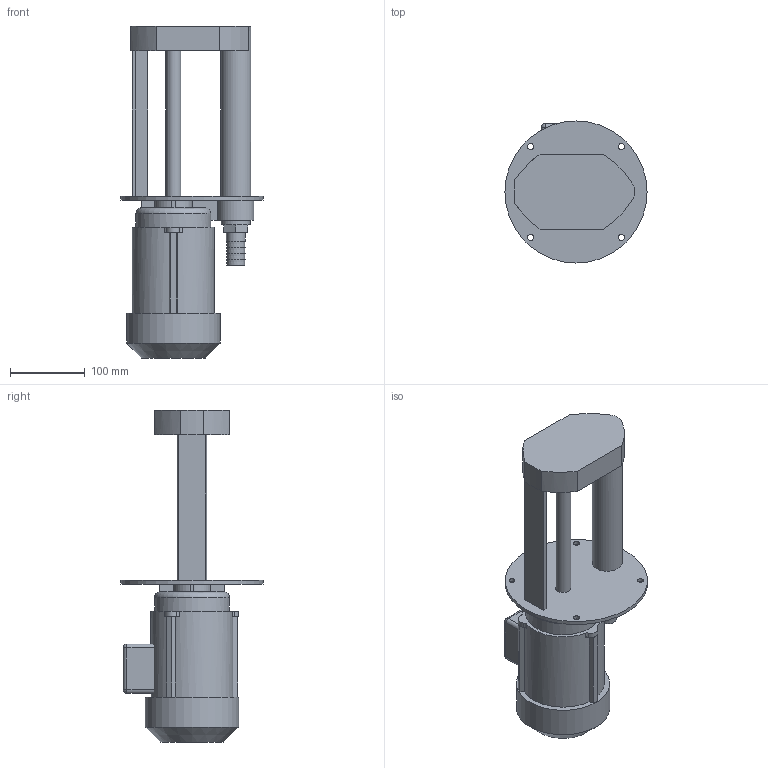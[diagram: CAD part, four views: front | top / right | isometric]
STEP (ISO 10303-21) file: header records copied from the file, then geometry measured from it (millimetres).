
FILE_DESCRIPTION(('STEP AP214'), '1');
FILE_NAME('AB-100-380V - Ïîìïà ÑÎÆ', '', ('UNSPECIFIED'), ('UNSPECIFIED'), 'ASCON STEP Converter 1.3', 'ASCON Math Kernel', '');
FILE_SCHEMA(('AUTOMOTIVE_DESIGN { 1 0 10303 214 3 1 1}'));
Length unit declared in the file: millimetre
Products named in the file (1): AB-100-380V
Bounding box: 190 x 190 x 444 mm (x, y, z)
Volume: 2978417.8 mm3; surface area: 302317.6 mm2
Topology: 2 solids, 2 shells, 133 faces, 338 edges, 212 vertices
Faces by surface type: plane 80, cylinder 43, cone 5, sphere 4, torus 1
Full cylindrical faces by diameter (mm): 8 x4, 12 x1, 18 x1, 20 x1, 25 x1, 30 x1, 30.292 x1, 32 x1, 39 x1, 40 x1, 50 x1, 100 x1, 125 x1, 190 x1
Entity records: 5019 total; most frequent: CARTESIAN_POINT 707, DIRECTION 688, ORIENTED_EDGE 612, EDGE_CURVE 306, AXIS2_PLACEMENT_3D 250, VERTEX_POINT 209, LINE 188, VECTOR 188
